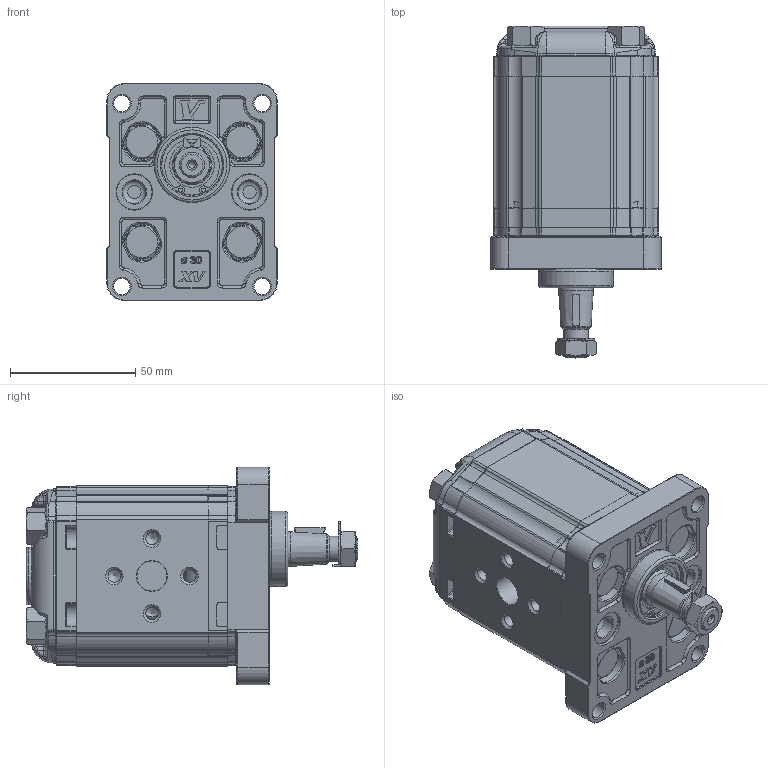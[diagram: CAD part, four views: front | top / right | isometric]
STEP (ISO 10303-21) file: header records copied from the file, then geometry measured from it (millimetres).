
FILE_DESCRIPTION( ( 'Unknown' ), '1' );
FILE_NAME( 'P:/montaggio_easy/output/STP/X1M3107GIIE.stp', 'Unknown', ( 'Unknown' ), ( 'Unknown' ), 'PSStep 14.0', 'Unknown', ' ' );
FILE_SCHEMA( ( 'AUTOMOTIVE_DESIGN { 1 0 10303 214 1 1 1 1 }' ) );
Length unit declared in the file: millimetre
Products named in the file (5): Assem1; X1M07; 1G; X1IIH60,5; XM113-E
Bounding box: 68 x 132.5 x 86.7 mm (x, y, z)
Surface area: 157832 mm2
Topology: 8 solids, 10 shells, 2916 faces, 7386 edges, 4584 vertices
Faces by surface type: plane 1026, cylinder 866, torus 426, cone 236, bspline 212, extrusion 134, sphere 16
Full cylindrical faces by diameter (mm): 1.678 x4, 2.5 x2, 3 x10, 5 x16, 6.5 x8, 8 x16, 8.5 x12, 9 x4, 9.3 x4, 10 x4, 10.25 x2, 10.5 x4, 11.445 x4, 12 x12, 13.955 x2, 14 x4, 14.5 x4, 14.923 x2, 17.115 x2, 17.833 x2, 20 x2, 22 x2, 24 x4, 24.2 x2, 25.5 x2, 30 x2
Entity records: 61629 total; most frequent: CARTESIAN_POINT 16229, DIRECTION 7010, ORIENTED_EDGE 6870, EDGE_CURVE 3435, AXIS2_PLACEMENT_3D 2717, VERTEX_POINT 2218, EDGE_LOOP 1755, VECTOR 1576
